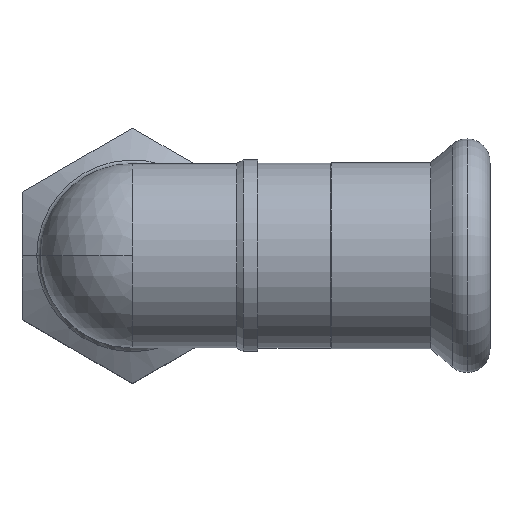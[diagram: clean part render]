
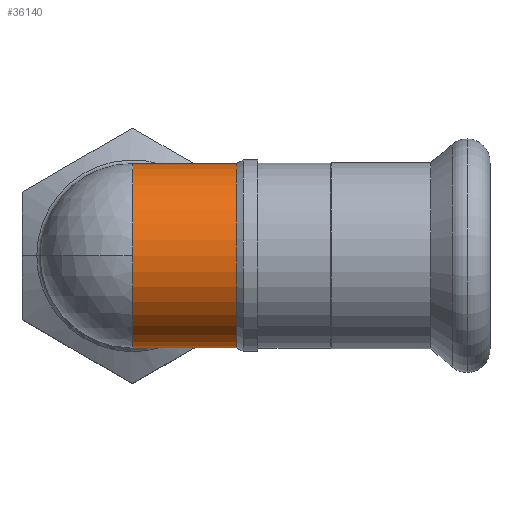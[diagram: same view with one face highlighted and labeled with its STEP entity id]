
A CAD part, top view. The second image highlights one B-rep face of the part: STEP entity #36140.
In plain terms, the highlighted cylindrical face has radius 12.5 mm (diameter 25 mm), a partial arc.
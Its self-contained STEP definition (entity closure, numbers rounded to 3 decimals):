
#780=CARTESIAN_POINT('',(53.369,-36.109,33.));
#790=DIRECTION('',(1.,0.,-0.));
#800=DIRECTION('',(0.,1.,0.));
#810=AXIS2_PLACEMENT_3D('',#780,#790,#800);
#820=CYLINDRICAL_SURFACE('',#810,12.5);
#2570=CARTESIAN_POINT('',(38.369,-23.609,33.));
#2580=VERTEX_POINT('',#2570);
#3110=CARTESIAN_POINT('',(52.503,-36.109,33.));
#3120=DIRECTION('',(1.,0.,-0.));
#3130=DIRECTION('',(0.,1.,0.));
#3140=AXIS2_PLACEMENT_3D('',#3110,#3120,#3130);
#3150=CIRCLE('',#3140,12.5);
#3160=CARTESIAN_POINT('',(52.503,-48.609,33.));
#3170=VERTEX_POINT('',#3160);
#3380=CARTESIAN_POINT('',(52.503,-23.609,33.));
#3390=VERTEX_POINT('',#3380);
#3400=EDGE_CURVE('',#3390,#3170,#3150,.T.);
#4140=CARTESIAN_POINT('',(38.369,-48.609,33.));
#4150=VERTEX_POINT('',#4140);
#18050=CARTESIAN_POINT('',(53.369,-48.609,33.));
#18060=DIRECTION('',(1.,0.,-0.));
#18070=VECTOR('',#18060,1.);
#18080=LINE('',#18050,#18070);
#18090=EDGE_CURVE('',#4150,#3170,#18080,.T.);
#18370=CARTESIAN_POINT('',(38.369,-36.109,33.));
#18380=DIRECTION('',(1.,0.,-0.));
#18390=DIRECTION('',(0.,1.,0.));
#18400=AXIS2_PLACEMENT_3D('',#18370,#18380,#18390);
#18410=CIRCLE('',#18400,12.5);
#18420=CARTESIAN_POINT('',(38.369,-36.109,45.5));
#18430=VERTEX_POINT('',#18420);
#18440=EDGE_CURVE('',#2580,#18430,#18410,.T.);
#36010=ORIENTED_EDGE('',*,*,#3400,.F.);
#36020=ORIENTED_EDGE('',*,*,#18090,.T.);
#36030=EDGE_CURVE('',#18430,#4150,#18410,.T.);
#36040=ORIENTED_EDGE('',*,*,#36030,.T.);
#36050=ORIENTED_EDGE('',*,*,#18440,.T.);
#36060=CARTESIAN_POINT('',(53.369,-23.609,33.));
#36070=DIRECTION('',(1.,0.,-0.));
#36080=VECTOR('',#36070,1.);
#36090=LINE('',#36060,#36080);
#36100=EDGE_CURVE('',#2580,#3390,#36090,.T.);
#36110=ORIENTED_EDGE('',*,*,#36100,.F.);
#36120=EDGE_LOOP('',(#36110,#36050,#36040,#36020,#36010));
#36130=FACE_OUTER_BOUND('',#36120,.T.);
#36140=ADVANCED_FACE('',(#36130),#820,.T.);
